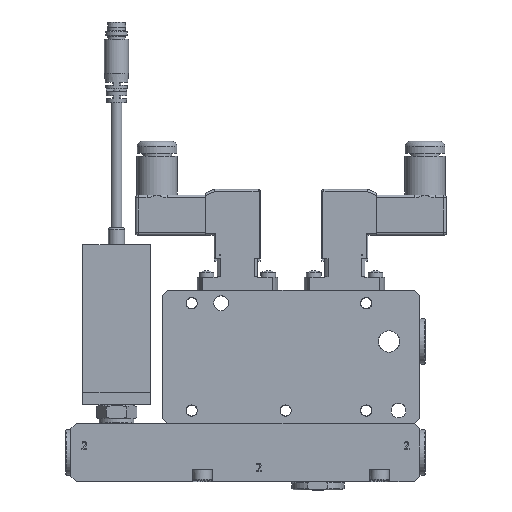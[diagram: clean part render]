
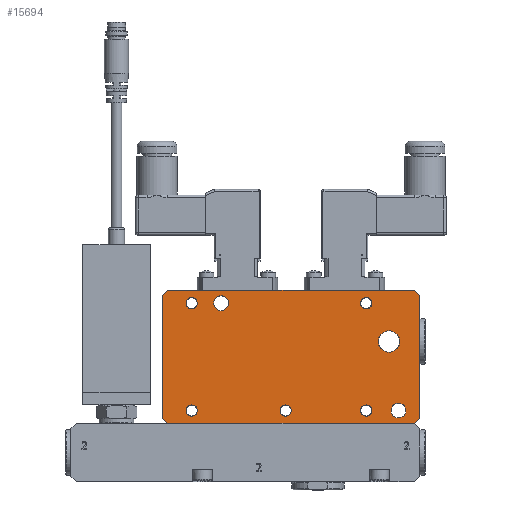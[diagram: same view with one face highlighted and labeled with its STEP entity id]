
A CAD part, top view. The second image highlights one B-rep face of the part: STEP entity #15694.
In plain terms, the highlighted planar face has unit normal (0, 0, 1).
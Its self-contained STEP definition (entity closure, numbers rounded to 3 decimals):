
#734=FACE_BOUND('',#3249,.T.);
#735=FACE_BOUND('',#3250,.T.);
#736=FACE_BOUND('',#3251,.T.);
#737=FACE_BOUND('',#3252,.T.);
#738=FACE_BOUND('',#3253,.T.);
#739=FACE_BOUND('',#3254,.T.);
#740=FACE_BOUND('',#3255,.T.);
#741=FACE_BOUND('',#3256,.T.);
#984=PLANE('',#17110);
#2312=FACE_OUTER_BOUND('',#3248,.T.);
#3248=EDGE_LOOP('',(#11312,#11313,#11314,#11315,#11316,#11317,#11318,#11319));
#3249=EDGE_LOOP('',(#11320));
#3250=EDGE_LOOP('',(#11321));
#3251=EDGE_LOOP('',(#11322));
#3252=EDGE_LOOP('',(#11323));
#3253=EDGE_LOOP('',(#11324));
#3254=EDGE_LOOP('',(#11325));
#3255=EDGE_LOOP('',(#11326));
#3256=EDGE_LOOP('',(#11327));
#4237=CIRCLE('',#17052,4.);
#4258=CIRCLE('',#17090,2.1);
#4259=CIRCLE('',#17092,2.1);
#4260=CIRCLE('',#17094,2.1);
#4261=CIRCLE('',#17096,2.1);
#4262=CIRCLE('',#17098,2.1);
#4263=CIRCLE('',#17100,2.75);
#4264=CIRCLE('',#17102,2.75);
#4721=LINE('',#22343,#6003);
#4821=LINE('',#22758,#6103);
#4824=LINE('',#22763,#6106);
#4826=LINE('',#22767,#6108);
#4828=LINE('',#22771,#6110);
#4830=LINE('',#22781,#6112);
#4831=LINE('',#22783,#6113);
#4832=LINE('',#22784,#6114);
#6003=VECTOR('',#18345,10.);
#6103=VECTOR('',#18645,10.);
#6106=VECTOR('',#18650,10.);
#6108=VECTOR('',#18654,10.);
#6110=VECTOR('',#18658,10.);
#6112=VECTOR('',#18668,10.);
#6113=VECTOR('',#18669,10.);
#6114=VECTOR('',#18670,10.);
#7304=VERTEX_POINT('',#22340);
#7305=VERTEX_POINT('',#22342);
#7389=VERTEX_POINT('',#22598);
#7420=VERTEX_POINT('',#22728);
#7421=VERTEX_POINT('',#22732);
#7422=VERTEX_POINT('',#22736);
#7423=VERTEX_POINT('',#22740);
#7424=VERTEX_POINT('',#22744);
#7425=VERTEX_POINT('',#22748);
#7426=VERTEX_POINT('',#22752);
#7427=VERTEX_POINT('',#22756);
#7428=VERTEX_POINT('',#22761);
#7429=VERTEX_POINT('',#22766);
#7430=VERTEX_POINT('',#22770);
#7434=VERTEX_POINT('',#22780);
#7435=VERTEX_POINT('',#22782);
#8775=EDGE_CURVE('',#7305,#7304,#4721,.T.);
#8877=EDGE_CURVE('',#7389,#7389,#4237,.T.);
#8924=EDGE_CURVE('',#7420,#7420,#4258,.T.);
#8926=EDGE_CURVE('',#7421,#7421,#4259,.T.);
#8928=EDGE_CURVE('',#7422,#7422,#4260,.T.);
#8930=EDGE_CURVE('',#7423,#7423,#4261,.T.);
#8932=EDGE_CURVE('',#7424,#7424,#4262,.T.);
#8934=EDGE_CURVE('',#7425,#7425,#4263,.T.);
#8936=EDGE_CURVE('',#7426,#7426,#4264,.T.);
#8939=EDGE_CURVE('',#7427,#7304,#4821,.T.);
#8942=EDGE_CURVE('',#7427,#7428,#4824,.T.);
#8944=EDGE_CURVE('',#7305,#7429,#4826,.T.);
#8946=EDGE_CURVE('',#7430,#7429,#4828,.T.);
#8951=EDGE_CURVE('',#7434,#7428,#4830,.T.);
#8952=EDGE_CURVE('',#7434,#7435,#4831,.T.);
#8953=EDGE_CURVE('',#7430,#7435,#4832,.T.);
#11312=ORIENTED_EDGE('',*,*,#8939,.F.);
#11313=ORIENTED_EDGE('',*,*,#8942,.T.);
#11314=ORIENTED_EDGE('',*,*,#8951,.F.);
#11315=ORIENTED_EDGE('',*,*,#8952,.T.);
#11316=ORIENTED_EDGE('',*,*,#8953,.F.);
#11317=ORIENTED_EDGE('',*,*,#8946,.T.);
#11318=ORIENTED_EDGE('',*,*,#8944,.F.);
#11319=ORIENTED_EDGE('',*,*,#8775,.T.);
#11320=ORIENTED_EDGE('',*,*,#8924,.T.);
#11321=ORIENTED_EDGE('',*,*,#8926,.T.);
#11322=ORIENTED_EDGE('',*,*,#8928,.T.);
#11323=ORIENTED_EDGE('',*,*,#8930,.T.);
#11324=ORIENTED_EDGE('',*,*,#8932,.T.);
#11325=ORIENTED_EDGE('',*,*,#8934,.T.);
#11326=ORIENTED_EDGE('',*,*,#8936,.T.);
#11327=ORIENTED_EDGE('',*,*,#8877,.T.);
#15694=ADVANCED_FACE('',(#2312,#734,#735,#736,#737,#738,#739,#740,#741),
#984,.T.);
#17052=AXIS2_PLACEMENT_3D('',#22599,#18510,#18511);
#17090=AXIS2_PLACEMENT_3D('',#22729,#18609,#18610);
#17092=AXIS2_PLACEMENT_3D('',#22733,#18614,#18615);
#17094=AXIS2_PLACEMENT_3D('',#22737,#18619,#18620);
#17096=AXIS2_PLACEMENT_3D('',#22741,#18624,#18625);
#17098=AXIS2_PLACEMENT_3D('',#22745,#18629,#18630);
#17100=AXIS2_PLACEMENT_3D('',#22749,#18634,#18635);
#17102=AXIS2_PLACEMENT_3D('',#22753,#18639,#18640);
#17110=AXIS2_PLACEMENT_3D('',#22779,#18666,#18667);
#18345=DIRECTION('',(1.,0.,0.));
#18510=DIRECTION('center_axis',(0.,0.,
-1.));
#18511=DIRECTION('ref_axis',(1.,0.,0.));
#18609=DIRECTION('center_axis',(0.,0.,
-1.));
#18610=DIRECTION('ref_axis',(1.,0.,0.));
#18614=DIRECTION('center_axis',(0.,0.,
-1.));
#18615=DIRECTION('ref_axis',(1.,0.,0.));
#18619=DIRECTION('center_axis',(0.,0.,
-1.));
#18620=DIRECTION('ref_axis',(1.,0.,0.));
#18624=DIRECTION('center_axis',(0.,0.,
-1.));
#18625=DIRECTION('ref_axis',(1.,0.,0.));
#18629=DIRECTION('center_axis',(0.,0.,
-1.));
#18630=DIRECTION('ref_axis',(1.,0.,0.));
#18634=DIRECTION('center_axis',(0.,0.,
-1.));
#18635=DIRECTION('ref_axis',(1.,0.,0.));
#18639=DIRECTION('center_axis',(0.,0.,
-1.));
#18640=DIRECTION('ref_axis',(1.,0.,0.));
#18645=DIRECTION('',(-0.707,-0.707,0.));
#18650=DIRECTION('',(0.,1.,0.));
#18654=DIRECTION('',(-0.707,0.707,0.));
#18658=DIRECTION('',(0.,-1.,0.));
#18666=DIRECTION('center_axis',(0.,0.,
1.));
#18667=DIRECTION('ref_axis',(1.,0.,0.));
#18668=DIRECTION('',(0.707,-0.707,0.));
#18669=DIRECTION('',(-1.,0.,0.));
#18670=DIRECTION('',(0.707,0.707,0.));
#22340=CARTESIAN_POINT('',(76.762,-2.451,9.589));
#22342=CARTESIAN_POINT('',(-15.238,-2.451,9.589));
#22343=CARTESIAN_POINT('',(78.762,-2.451,9.589));
#22598=CARTESIAN_POINT('',(63.262,28.049,9.589));
#22599=CARTESIAN_POINT('Origin',(67.262,28.049,9.589));
#22728=CARTESIAN_POINT('',(-8.338,2.299,9.589));
#22729=CARTESIAN_POINT('Origin',(-6.238,2.299,9.589));
#22732=CARTESIAN_POINT('',(56.662,42.299,9.589));
#22733=CARTESIAN_POINT('Origin',(58.762,42.299,9.589));
#22736=CARTESIAN_POINT('',(56.662,2.299,9.589));
#22737=CARTESIAN_POINT('Origin',(58.762,2.299,9.589));
#22740=CARTESIAN_POINT('',(-8.338,42.299,9.589));
#22741=CARTESIAN_POINT('Origin',(-6.238,42.299,9.589));
#22744=CARTESIAN_POINT('',(26.662,2.299,9.589));
#22745=CARTESIAN_POINT('Origin',(28.762,2.299,9.589));
#22748=CARTESIAN_POINT('',(68.012,2.299,9.589));
#22749=CARTESIAN_POINT('Origin',(70.762,2.299,9.589));
#22752=CARTESIAN_POINT('',(2.012,42.299,9.589));
#22753=CARTESIAN_POINT('Origin',(4.762,42.299,9.589));
#22756=CARTESIAN_POINT('',(78.762,-0.451,9.589));
#22758=CARTESIAN_POINT('',(71.949,-7.264,9.589));
#22761=CARTESIAN_POINT('',(78.762,45.049,9.589));
#22763=CARTESIAN_POINT('',(78.762,47.049,9.589));
#22766=CARTESIAN_POINT('',(-17.238,-0.451,9.589));
#22767=CARTESIAN_POINT('',(-10.426,-7.264,9.589));
#22770=CARTESIAN_POINT('',(-17.238,45.049,9.589));
#22771=CARTESIAN_POINT('',(-17.238,-2.451,9.589));
#22779=CARTESIAN_POINT('Origin',(30.762,22.299,9.589));
#22780=CARTESIAN_POINT('',(76.762,47.049,9.589));
#22781=CARTESIAN_POINT('',(71.949,51.861,9.589));
#22782=CARTESIAN_POINT('',(-15.238,47.049,9.589));
#22783=CARTESIAN_POINT('',(-17.238,47.049,9.589));
#22784=CARTESIAN_POINT('',(-10.426,51.861,9.589));
